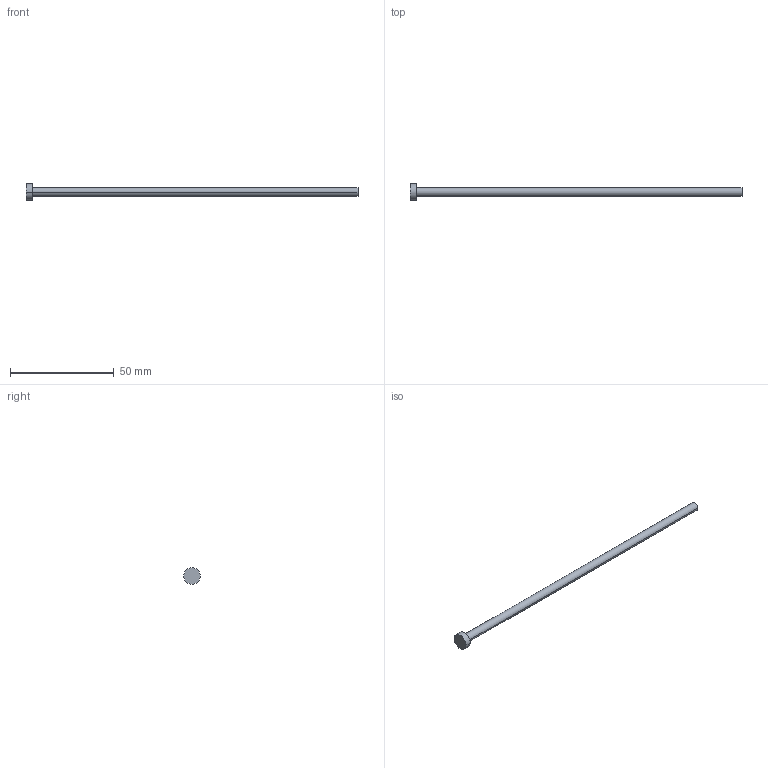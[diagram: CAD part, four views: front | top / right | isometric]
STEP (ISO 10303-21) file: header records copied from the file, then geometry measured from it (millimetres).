
FILE_DESCRIPTION (( 'STEP AP214' ), '1' );
FILE_NAME ('A-4,2x160.STEP', '2020-05-28T17:39:20', ( 'August' ), ( '' ), 'SwSTEP 2.0', 'SolidWorks 2018', '' );
FILE_SCHEMA (( 'AUTOMOTIVE_DESIGN' ));
Length unit declared in the file: millimetre
Products named in the file (1): A-4,2x160
Bounding box: 160 x 8 x 8 mm (x, y, z)
Volume: 2326.2 mm3; surface area: 2245.8 mm2
Topology: 1 solids, 1 shells, 9 faces, 16 edges, 10 vertices
Faces by surface type: cylinder 4, plane 3, torus 2
Entity records: 260 total; most frequent: DIRECTION 48, CARTESIAN_POINT 36, ORIENTED_EDGE 32, AXIS2_PLACEMENT_3D 22, EDGE_CURVE 16, CIRCLE 12, VERTEX_POINT 10, EDGE_LOOP 10
